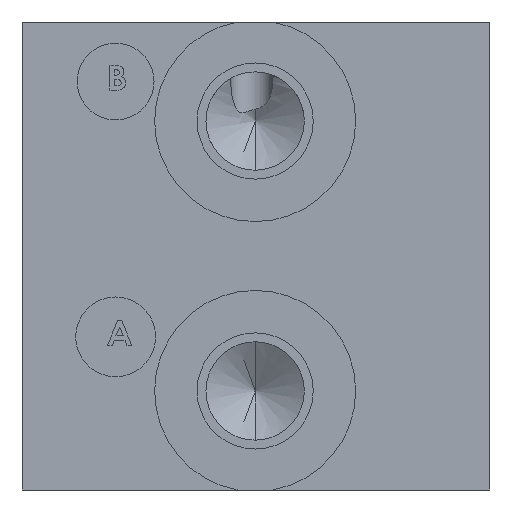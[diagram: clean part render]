
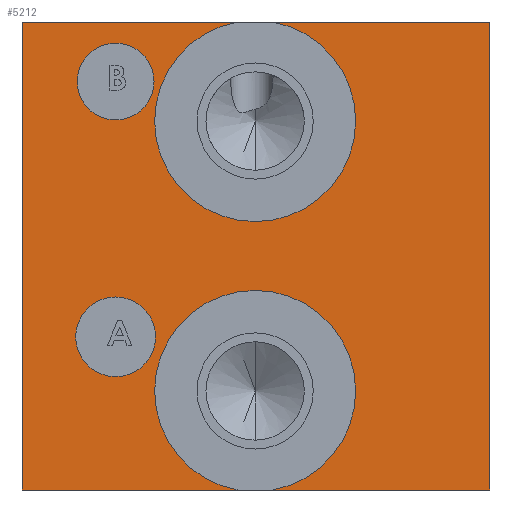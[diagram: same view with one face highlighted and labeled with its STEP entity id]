
A CAD part, front view. The second image highlights one B-rep face of the part: STEP entity #5212.
In plain terms, the highlighted planar face has unit normal (0, -1, 0).
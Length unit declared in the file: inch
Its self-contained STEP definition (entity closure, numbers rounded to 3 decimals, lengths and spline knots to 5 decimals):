
#11 = VERTEX_POINT ( 'NONE', #4996 ) ;
#87 = CARTESIAN_POINT ( 'NONE',  ( 1.26987, 0., 0. ) ) ;
#94 = CIRCLE ( 'NONE', #7212, 0.59055 ) ;
#255 = AXIS2_PLACEMENT_3D ( 'NONE', #5485, #5439, #5433 ) ;
#312 = LINE ( 'NONE', #7237, #1452 ) ;
#473 = ORIENTED_EDGE ( 'NONE', *, *, #6129, .F. ) ;
#685 = ORIENTED_EDGE ( 'NONE', *, *, #6131, .F. ) ;
#789 = AXIS2_PLACEMENT_3D ( 'NONE', #3122, #3062, #3084 ) ;
#819 = FACE_BOUND ( 'NONE', #2036, .T. ) ;
#826 = CIRCLE ( 'NONE', #6401, 0.22582 ) ;
#953 = VECTOR ( 'NONE', #7560, 39.37008 ) ;
#973 = CARTESIAN_POINT ( 'NONE',  ( 0.55, 0., 2.17418 ) ) ;
#981 = CARTESIAN_POINT ( 'NONE',  ( 0.55, 0., 2.62582 ) ) ;
#1010 = VERTEX_POINT ( 'NONE', #981 ) ;
#1022 = VERTEX_POINT ( 'NONE', #973 ) ;
#1411 = VERTEX_POINT ( 'NONE', #7487 ) ;
#1452 = VECTOR ( 'NONE', #7216, 39.37008 ) ;
#1551 = AXIS2_PLACEMENT_3D ( 'NONE', #3023, #3022, #3012 ) ;
#1565 = CARTESIAN_POINT ( 'NONE',  ( 1.26987, 0., 2.75 ) ) ;
#1652 = CIRCLE ( 'NONE', #7195, 0.59055 ) ;
#1695 = ORIENTED_EDGE ( 'NONE', *, *, #6194, .T. ) ;
#1843 = LINE ( 'NONE', #7357, #6834 ) ;
#1986 = CARTESIAN_POINT ( 'NONE',  ( 2.75, 0., 0. ) ) ;
#2036 = EDGE_LOOP ( 'NONE', ( #685, #2370 ) ) ;
#2040 = VECTOR ( 'NONE', #7505, 39.37008 ) ;
#2223 = CIRCLE ( 'NONE', #7230, 0.22582 ) ;
#2370 = ORIENTED_EDGE ( 'NONE', *, *, #7175, .F. ) ;
#2408 = VERTEX_POINT ( 'NONE', #1565 ) ;
#2478 = DIRECTION ( 'NONE',  ( 0., 0., -1. ) ) ;
#2480 = DIRECTION ( 'NONE',  ( 0., -1., 0. ) ) ;
#2495 = CARTESIAN_POINT ( 'NONE',  ( 0.55, 0., 2.4 ) ) ;
#2566 = ORIENTED_EDGE ( 'NONE', *, *, #6161, .F. ) ;
#2830 = CARTESIAN_POINT ( 'NONE',  ( 2.75, 0., 2.75 ) ) ;
#2920 = CARTESIAN_POINT ( 'NONE',  ( 0.55, 0., 0.6655 ) ) ;
#3012 = DIRECTION ( 'NONE',  ( 0., 0., -1. ) ) ;
#3022 = DIRECTION ( 'NONE',  ( 0., -1., 0. ) ) ;
#3023 = CARTESIAN_POINT ( 'NONE',  ( 0.55, 0., 0.9 ) ) ;
#3062 = DIRECTION ( 'NONE',  ( 0., -1., 0. ) ) ;
#3084 = DIRECTION ( 'NONE',  ( 0., 0., -1. ) ) ;
#3122 = CARTESIAN_POINT ( 'NONE',  ( 1.37, 0., 2.168 ) ) ;
#3439 = VERTEX_POINT ( 'NONE', #5376 ) ;
#3738 = EDGE_LOOP ( 'NONE', ( #473, #3918 ) ) ;
#3765 = CIRCLE ( 'NONE', #1551, 0.2345 ) ;
#3907 = EDGE_CURVE ( 'NONE', #1411, #5630, #3765, .T. ) ;
#3918 = ORIENTED_EDGE ( 'NONE', *, *, #3907, .F. ) ;
#3954 = VERTEX_POINT ( 'NONE', #2830 ) ;
#4110 = ORIENTED_EDGE ( 'NONE', *, *, #6144, .F. ) ;
#4220 = CARTESIAN_POINT ( 'NONE',  ( 1.37, 0., 1.57745 ) ) ;
#4678 = EDGE_CURVE ( 'NONE', #8036, #11, #6816, .T. ) ;
#4781 = VERTEX_POINT ( 'NONE', #87 ) ;
#4898 = LINE ( 'NONE', #7268, #8271 ) ;
#4973 = EDGE_LOOP ( 'NONE', ( #4110, #2566, #6013, #7812, #6226, #7972, #6439, #8138, #1695 ) ) ;
#4996 = CARTESIAN_POINT ( 'NONE',  ( 1.47013, 0., 2.75 ) ) ;
#5096 = VERTEX_POINT ( 'NONE', #6223 ) ;
#5166 = CARTESIAN_POINT ( 'NONE',  ( 1.47013, 0., 0. ) ) ;
#5212 = ADVANCED_FACE ( 'NONE', ( #5943, #819, #7554 ), #5629, .F. ) ;
#5273 = VERTEX_POINT ( 'NONE', #5166 ) ;
#5286 = CIRCLE ( 'NONE', #7260, 0.2345 ) ;
#5376 = CARTESIAN_POINT ( 'NONE',  ( 0., 0., 0. ) ) ;
#5433 = DIRECTION ( 'NONE',  ( 0., 0., 1. ) ) ;
#5439 = DIRECTION ( 'NONE',  ( 0., 1., 0. ) ) ;
#5476 = LINE ( 'NONE', #7473, #2040 ) ;
#5485 = CARTESIAN_POINT ( 'NONE',  ( 2.75, 0., 2.75 ) ) ;
#5629 = PLANE ( 'NONE',  #255 ) ;
#5630 = VERTEX_POINT ( 'NONE', #2920 ) ;
#5755 = VERTEX_POINT ( 'NONE', #1986 ) ;
#5943 = FACE_BOUND ( 'NONE', #3738, .T. ) ;
#6013 = ORIENTED_EDGE ( 'NONE', *, *, #6177, .F. ) ;
#6086 = EDGE_CURVE ( 'NONE', #3954, #11, #7693, .T. ) ;
#6114 = EDGE_CURVE ( 'NONE', #2408, #5096, #5476, .T. ) ;
#6129 = EDGE_CURVE ( 'NONE', #5630, #1411, #5286, .T. ) ;
#6131 = EDGE_CURVE ( 'NONE', #1022, #1010, #2223, .T. ) ;
#6144 = EDGE_CURVE ( 'NONE', #4781, #3439, #1843, .T. ) ;
#6161 = EDGE_CURVE ( 'NONE', #5273, #4781, #94, .T. ) ;
#6177 = EDGE_CURVE ( 'NONE', #5755, #5273, #4898, .T. ) ;
#6182 = EDGE_CURVE ( 'NONE', #3954, #5755, #312, .T. ) ;
#6192 = EDGE_CURVE ( 'NONE', #2408, #8036, #1652, .T. ) ;
#6194 = EDGE_CURVE ( 'NONE', #5096, #3439, #6609, .T. ) ;
#6223 = CARTESIAN_POINT ( 'NONE',  ( 0., 0., 2.75 ) ) ;
#6226 = ORIENTED_EDGE ( 'NONE', *, *, #6086, .T. ) ;
#6396 = VECTOR ( 'NONE', #7200, 39.37008 ) ;
#6401 = AXIS2_PLACEMENT_3D ( 'NONE', #2495, #2480, #2478 ) ;
#6439 = ORIENTED_EDGE ( 'NONE', *, *, #6192, .F. ) ;
#6609 = LINE ( 'NONE', #7136, #6396 ) ;
#6816 = CIRCLE ( 'NONE', #789, 0.59055 ) ;
#6834 = VECTOR ( 'NONE', #7292, 39.37008 ) ;
#7136 = CARTESIAN_POINT ( 'NONE',  ( 0., 0., 2.75 ) ) ;
#7156 = CARTESIAN_POINT ( 'NONE',  ( 1.37, 0., 2.168 ) ) ;
#7174 = DIRECTION ( 'NONE',  ( 0., 0., -1. ) ) ;
#7175 = EDGE_CURVE ( 'NONE', #1010, #1022, #826, .T. ) ;
#7178 = DIRECTION ( 'NONE',  ( 0., -1., 0. ) ) ;
#7195 = AXIS2_PLACEMENT_3D ( 'NONE', #7156, #7178, #7174 ) ;
#7200 = DIRECTION ( 'NONE',  ( 0., 0., -1. ) ) ;
#7212 = AXIS2_PLACEMENT_3D ( 'NONE', #7262, #7259, #7225 ) ;
#7216 = DIRECTION ( 'NONE',  ( 0., 0., -1. ) ) ;
#7225 = DIRECTION ( 'NONE',  ( 0., 0., -1. ) ) ;
#7230 = AXIS2_PLACEMENT_3D ( 'NONE', #7316, #7310, #7333 ) ;
#7237 = CARTESIAN_POINT ( 'NONE',  ( 2.75, 0., 2.75 ) ) ;
#7259 = DIRECTION ( 'NONE',  ( 0., -1., 0. ) ) ;
#7260 = AXIS2_PLACEMENT_3D ( 'NONE', #7356, #7386, #7341 ) ;
#7262 = CARTESIAN_POINT ( 'NONE',  ( 1.37, 0., 0.582 ) ) ;
#7268 = CARTESIAN_POINT ( 'NONE',  ( 2.75, 0., 0. ) ) ;
#7292 = DIRECTION ( 'NONE',  ( -1., 0., 0. ) ) ;
#7299 = DIRECTION ( 'NONE',  ( -1., 0., 0. ) ) ;
#7310 = DIRECTION ( 'NONE',  ( 0., -1., 0. ) ) ;
#7316 = CARTESIAN_POINT ( 'NONE',  ( 0.55, 0., 2.4 ) ) ;
#7333 = DIRECTION ( 'NONE',  ( 0., 0., -1. ) ) ;
#7341 = DIRECTION ( 'NONE',  ( 0., 0., -1. ) ) ;
#7356 = CARTESIAN_POINT ( 'NONE',  ( 0.55, 0., 0.9 ) ) ;
#7357 = CARTESIAN_POINT ( 'NONE',  ( 2.75, 0., 0. ) ) ;
#7386 = DIRECTION ( 'NONE',  ( 0., -1., 0. ) ) ;
#7473 = CARTESIAN_POINT ( 'NONE',  ( 2.75, 0., 2.75 ) ) ;
#7487 = CARTESIAN_POINT ( 'NONE',  ( 0.55, 0., 1.1345 ) ) ;
#7505 = DIRECTION ( 'NONE',  ( -1., 0., 0. ) ) ;
#7546 = CARTESIAN_POINT ( 'NONE',  ( 2.75, 0., 2.75 ) ) ;
#7554 = FACE_OUTER_BOUND ( 'NONE', #4973, .T. ) ;
#7560 = DIRECTION ( 'NONE',  ( -1., 0., 0. ) ) ;
#7693 = LINE ( 'NONE', #7546, #953 ) ;
#7812 = ORIENTED_EDGE ( 'NONE', *, *, #6182, .F. ) ;
#7972 = ORIENTED_EDGE ( 'NONE', *, *, #4678, .F. ) ;
#8036 = VERTEX_POINT ( 'NONE', #4220 ) ;
#8138 = ORIENTED_EDGE ( 'NONE', *, *, #6114, .T. ) ;
#8271 = VECTOR ( 'NONE', #7299, 39.37008 ) ;
